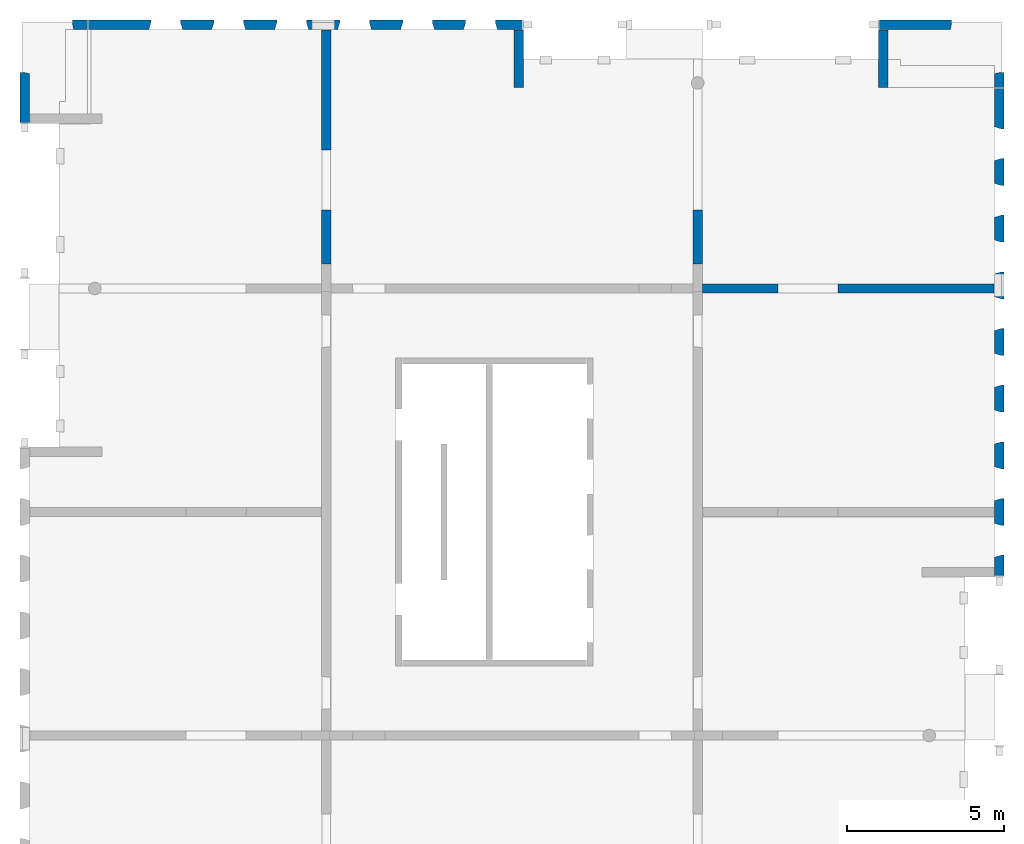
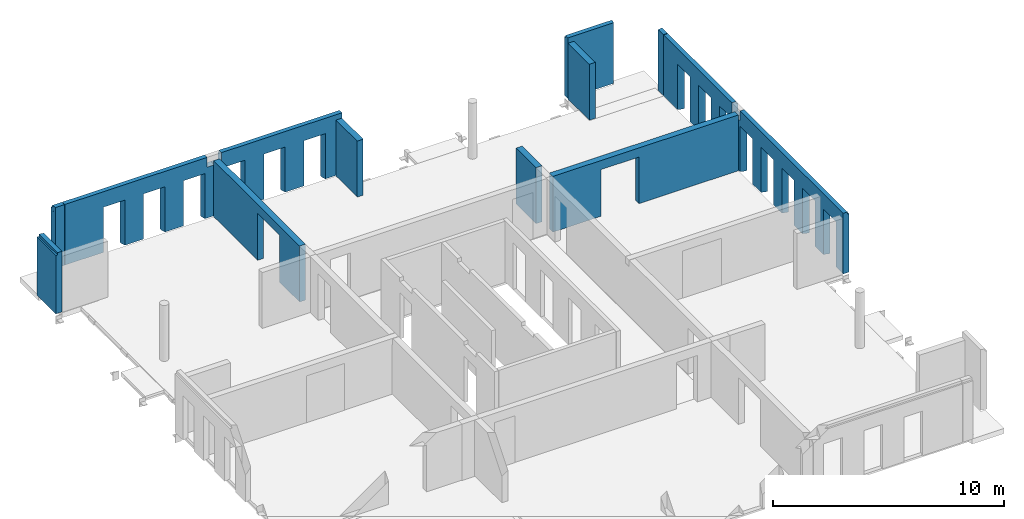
# One storey, part 4 of 6: 13 walls, 32 openings.
"""IFC2X3 building model written with IfcOpenShell, lengths in millimetres."""

from ifc_helpers import new_model, entity, si_unit, converted_unit, derived_unit, direction, frame, frame_2d, origin, origin_2d_with_axis, place, context, subcontext, project, spatial, polyline, rectangle, extrude, clip, bounded_halfspace, faceted_brep, material, layer, layer_set, layer_usage, type_object, element, save


model = new_model("IFC2X3")

# Units and contexts
model_context = context("Model", 3, precision=0.01, world=origin(), true_north=direction((6.12303176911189e-17, 1.0)))
body_context = subcontext(model_context, "Body", "Model", "MODEL_VIEW")
ifc_project = project(units=[si_unit("LENGTHUNIT", "METRE", prefix="MILLI"), si_unit("AREAUNIT", "SQUARE_METRE"), si_unit("VOLUMEUNIT", "CUBIC_METRE"), converted_unit("PLANEANGLEUNIT", "DEGREE", entity("IfcRatioMeasure", 0.0174532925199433), si_unit("PLANEANGLEUNIT", "RADIAN"), dimensions=[0, 0, 0, 0, 0, 0, 0]), si_unit("MASSUNIT", "GRAM", prefix="KILO"), derived_unit("MASSDENSITYUNIT", [(si_unit("MASSUNIT", "GRAM", prefix="KILO"), 1), (si_unit("LENGTHUNIT", "METRE"), -3)]), si_unit("TIMEUNIT", "SECOND"), si_unit("FREQUENCYUNIT", "HERTZ"), si_unit("THERMODYNAMICTEMPERATUREUNIT", "DEGREE_CELSIUS"), derived_unit("THERMALTRANSMITTANCEUNIT", [(si_unit("MASSUNIT", "GRAM", prefix="KILO"), 1), (si_unit("THERMODYNAMICTEMPERATUREUNIT", "KELVIN"), -1), (si_unit("TIMEUNIT", "SECOND"), -3)]), derived_unit("VOLUMETRICFLOWRATEUNIT", [(si_unit("LENGTHUNIT", "METRE"), 3), (si_unit("TIMEUNIT", "SECOND"), -1)]), si_unit("ELECTRICCURRENTUNIT", "AMPERE"), si_unit("ELECTRICVOLTAGEUNIT", "VOLT"), si_unit("POWERUNIT", "WATT"), si_unit("FORCEUNIT", "NEWTON", prefix="KILO"), si_unit("ILLUMINANCEUNIT", "LUX"), si_unit("LUMINOUSFLUXUNIT", "LUMEN"), si_unit("LUMINOUSINTENSITYUNIT", "CANDELA"), derived_unit("USERDEFINED", [(si_unit("MASSUNIT", "GRAM", prefix="KILO"), -1), (si_unit("LENGTHUNIT", "METRE"), -2), (si_unit("TIMEUNIT", "SECOND"), 3), (si_unit("LUMINOUSFLUXUNIT", "LUMEN"), 1)]), derived_unit("LINEARVELOCITYUNIT", [(si_unit("LENGTHUNIT", "METRE"), 1), (si_unit("TIMEUNIT", "SECOND"), -1)]), si_unit("PRESSUREUNIT", "PASCAL"), derived_unit("USERDEFINED", [(si_unit("LENGTHUNIT", "METRE"), -2), (si_unit("MASSUNIT", "GRAM", prefix="KILO"), 1), (si_unit("TIMEUNIT", "SECOND"), -2)])], contexts=[model_context])

# Site, building, storey
site_placement = place(None, origin())
site = spatial("IfcSite", under=ifc_project, at=site_placement, Name="Default", CompositionType="ELEMENT")
building_placement = place(site_placement, origin())
building = spatial("IfcBuilding", under=site, at=building_placement, Name="niet gebruiken", CompositionType="ELEMENT")
storey_placement = place(building_placement, frame((0.0, 0.0, 161820.0)))
storey = spatial("IfcBuildingStorey", under=building, at=storey_placement, Name="52 tweeënvijftigste verdieping", CompositionType="ELEMENT", Elevation=161820.0)

# Wall, opening
ifc_material = material(Name="NLRS_f2_beton prefab")
ifc_layer_1 = layer(ifc_material, 300.0)
ifc_layer_set_1 = layer_set([ifc_layer_1], Name="Basic Wall:NLRS_22.21_WA_beton prefab d=300_gen")
ifc_layer_usage_1 = layer_usage(ifc_layer_set_1, "AXIS2", "NEGATIVE", 150.0)
wall_type_1 = type_object("IfcWallType", Name="Basic Wall:NLRS_22.21_WA_beton prefab d=300_gen", PredefinedType="STANDARD", material=ifc_layer_set_1)
wall_1_placement = place(storey_placement, frame((157060.0, 24600.0, -60.0), z_axis=(0.0, 0.0, 1.0), x_axis=(-1.0, 0.0, 0.0)))
wall_1 = element("IfcWallStandardCase", 1, at=wall_1_placement, inside=storey, type_object=wall_type_1, material=ifc_layer_usage_1, Name="Basic Wall:NLRS_22.21_WA_beton prefab d=300_gen", ObjectType="Basic Wall:NLRS_22.21_WA_beton prefab d=300_gen", context=body_context, shape_type="SweptSolid", body=[
    extrude(rectangle(XDim=9260.00000000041, YDim=300.000000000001, at=frame_2d((4630.0000000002, -1.69109171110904e-12), x_axis=(-1.0, 0.0))), origin(), (0.0, 0.0, 1.0), 2939.99999999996),
])
opening_1_placement = place(wall_1_placement, origin())
element("IfcOpeningElement", 2, at=opening_1_placement, cuts=wall_1, Name="Basic Wall:NLRS_22.21_WA_beton prefab d=300_gen", ObjectType="Opening", context=body_context, shape_type="SweptSolid", body=[
    extrude(rectangle(XDim=2469.99999999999, YDim=1900.0, at=frame_2d((1.73940861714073e-11, 8.69704308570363e-12), x_axis=(1.0, 0.0))), frame((5910.0, -150.0, 1225.0), z_axis=(0.0, 1.0, 0.0), x_axis=(0.0, 0.0, -1.0)), (0.0, 0.0, 1.0), 300.000000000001),
])

# Walls
ifc_layer_usage_2 = layer_usage(ifc_layer_set_1, "AXIS2", "NEGATIVE", 150.0)
wall_2_placement = place(storey_placement, frame((147650.0, 25380.0, -70.0), z_axis=(0.0, 0.0, 1.0), x_axis=(0.0, 1.0, 0.0)))
element("IfcWallStandardCase", 3, at=wall_2_placement, inside=storey, type_object=wall_type_1, material=ifc_layer_usage_2, Name="Basic Wall:NLRS_22.21_WA_beton prefab d=300_gen", ObjectType="Basic Wall:NLRS_22.21_WA_beton prefab d=300_gen", context=body_context, shape_type="SweptSolid", body=[
    extrude(rectangle(XDim=1720.00000000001, YDim=300.000000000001, at=frame_2d((860.000000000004, -6.89226453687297e-12), x_axis=(-1.0, 0.0))), origin(), (0.0, 0.0, 1.0), 2949.99999999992),
])
ifc_layer_usage_3 = layer_usage(ifc_layer_set_1, "AXIS2", "NEGATIVE", 150.0)
wall_3_placement = place(storey_placement, frame((153540.0, 32810.0, -70.0), z_axis=(0.0, 0.0, 1.0), x_axis=(0.0, -1.0, 0.0)))
element("IfcWallStandardCase", 4, at=wall_3_placement, inside=storey, type_object=wall_type_1, material=ifc_layer_usage_3, Name="Basic Wall:NLRS_22.21_WA_beton prefab d=300_gen", ObjectType="Basic Wall:NLRS_22.21_WA_beton prefab d=300_gen", context=body_context, shape_type="SweptSolid", body=[
    extrude(rectangle(XDim=1829.99999999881, YDim=300.000000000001, at=frame_2d((914.999999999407, -2.07478478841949e-12), x_axis=(-1.0, 0.0))), origin(), (0.0, 0.0, 1.0), 2949.99999999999),
])
ifc_layer_usage_4 = layer_usage(ifc_layer_set_1, "AXIS2", "NEGATIVE", 150.0)
wall_4_placement = place(storey_placement, frame((141960.0, 32810.0, -70.0), z_axis=(0.0, 0.0, 1.0), x_axis=(0.0, -1.0, 0.0)))
element("IfcWallStandardCase", 5, at=wall_4_placement, inside=storey, type_object=wall_type_1, material=ifc_layer_usage_4, Name="Basic Wall:NLRS_22.21_WA_beton prefab d=300_gen", ObjectType="Basic Wall:NLRS_22.21_WA_beton prefab d=300_gen", context=body_context, shape_type="SweptSolid", body=[
    extrude(rectangle(XDim=1829.99999999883, YDim=300.000000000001, at=frame_2d((914.999999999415, -2.07478478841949e-12), x_axis=(-1.0, 0.0))), origin(), (0.0, 0.0, 1.0), 2949.99999999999),
])

# Wall, opening
ifc_layer_usage_5 = layer_usage(ifc_layer_set_1, "AXIS2", "NEGATIVE", 150.0)
wall_5_placement = place(storey_placement, frame((135850.0, 25380.0, -70.0), z_axis=(0.0, 0.0, 1.0), x_axis=(0.0, 1.0, 0.0)))
wall_5 = element("IfcWallStandardCase", 6, at=wall_5_placement, inside=storey, type_object=wall_type_1, material=ifc_layer_usage_5, Name="Basic Wall:NLRS_22.21_WA_beton prefab d=300_gen", ObjectType="Basic Wall:NLRS_22.21_WA_beton prefab d=300_gen", context=body_context, shape_type="SweptSolid", body=[
    extrude(rectangle(XDim=7430.00000000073, YDim=300.000000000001, at=frame_2d((3715.00000000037, -5.62749846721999e-12), x_axis=(-1.0, 0.0))), origin(), (0.0, 0.0, 1.0), 2949.99999999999),
])
opening_2_placement = place(wall_5_placement, origin())
element("IfcOpeningElement", 7, at=opening_2_placement, cuts=wall_5, Name="Basic Wall:NLRS_22.21_WA_beton prefab d=300_gen", ObjectType="Opening", context=body_context, shape_type="SweptSolid", body=[
    extrude(rectangle(XDim=2469.99999999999, YDim=1899.99999999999, at=frame_2d((1.73940861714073e-11, -2.1600499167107e-12), x_axis=(1.0, 0.0))), frame((2670.0, -150.0, 1235.0), z_axis=(0.0, 1.0, 0.0), x_axis=(0.0, 0.0, -1.0)), (0.0, 0.0, 1.0), 300.000000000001),
])

# Wall, openings
ifc_layer_2 = layer(ifc_material, 300.0)
ifc_layer_set_2 = layer_set([ifc_layer_2], Name="Basic Wall:NLRS_21.21_WA_beton prefab d=300/320_gen")
ifc_layer_usage_6 = layer_usage(ifc_layer_set_2, "AXIS2", "NEGATIVE", 150.0)
wall_type_2 = type_object("IfcWallType", Name="Basic Wall:NLRS_21.21_WA_beton prefab d=300/320_gen", PredefinedType="STANDARD", material=ifc_layer_set_2)
wall_6_placement = place(storey_placement, frame((128290.0, 32980.0, -50.0)))
wall_6 = element("IfcWallStandardCase", 8, at=wall_6_placement, inside=storey, type_object=wall_type_2, material=ifc_layer_usage_6, Name="Basic Wall:NLRS_21.21_WA_beton prefab d=300/320_gen", ObjectType="Basic Wall:NLRS_21.21_WA_beton prefab d=300/320_gen", context=body_context, shape_type="SweptSolid", body=[
    extrude(rectangle(XDim=7449.9999999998, YDim=300.000000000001, at=frame_2d((3724.9999999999, 0.0), x_axis=(-1.0, 0.0))), origin(), (0.0, 0.0, 1.0), 3199.99999999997),
])
opening_3_placement = place(wall_6_placement, frame((3925.0, -150.0, -20.0)))
element("IfcOpeningElement", 9, at=opening_3_placement, cuts=wall_6, Name="Basic Wall:NLRS_21.21_WA_beton prefab d=300/320_gen", ObjectType="Opening", context=body_context, shape_type="Brep", body=[
    faceted_brep([(1070.0, 0.0, 2405.0), (0.0, 0.0, 2405.0), (0.0, 0.0, 0.0), (1070.0, 0.0, 0.0), (1005.0, 219.0, 2370.0), (65.0, 219.0, 2370.0), (65.0, 219.0, 0.0), (65.0, 300.0, 0.0), (1005.0, 300.0, 0.0), (1005.0, 219.0, 0.0), (1005.0, 300.0, 2370.0), (65.0, 300.0, 2370.0)], [[[0, 1, 2, 3]], [[1, 0, 4, 5]], [[2, 1, 5, 6]], [[3, 2, 6, 7, 8, 9]], [[0, 3, 9, 4]], [[10, 8, 7, 11]], [[10, 11, 5, 4]], [[11, 7, 6, 5]], [[8, 10, 4, 9]]]),
])
opening_4_placement = place(wall_6_placement, frame((1925.0, -150.0, -20.0)))
element("IfcOpeningElement", 10, at=opening_4_placement, cuts=wall_6, Name="Basic Wall:NLRS_21.21_WA_beton prefab d=300/320_gen", ObjectType="Opening", context=body_context, shape_type="Brep", body=[
    faceted_brep([(1070.0, 0.0, 2405.0), (0.0, 0.0, 2405.0), (0.0, 0.0, 0.0), (1070.0, 0.0, 0.0), (1005.0, 219.0, 2370.0), (65.0, 219.0, 2370.0), (65.0, 219.0, 0.0), (65.0, 300.0, 0.0), (1005.0, 300.0, 0.0), (1005.0, 219.0, 0.0), (1005.0, 300.0, 2370.0), (65.0, 300.0, 2370.0)], [[[0, 1, 2, 3]], [[1, 0, 4, 5]], [[2, 1, 5, 6]], [[3, 2, 6, 7, 8, 9]], [[0, 3, 9, 4]], [[10, 8, 7, 11]], [[10, 11, 5, 4]], [[11, 7, 6, 5]], [[8, 10, 4, 9]]]),
])
opening_5_placement = place(wall_6_placement, frame((5925.0, -150.0, -20.0)))
element("IfcOpeningElement", 11, at=opening_5_placement, cuts=wall_6, Name="Basic Wall:NLRS_21.21_WA_beton prefab d=300/320_gen", ObjectType="Opening", context=body_context, shape_type="Brep", body=[
    faceted_brep([(0.0, 0.0, 2405.0), (0.0, 0.0, 0.0), (1070.0, 0.0, 0.0), (1070.0, 0.0, 2405.0), (1005.0, 219.0, 2370.0), (65.0, 219.0, 2370.0), (1005.0, 219.0, 0.0), (65.0, 219.0, 0.0), (65.0, 300.0, 0.0), (1005.0, 300.0, 0.0), (65.0, 300.0, 2370.0), (1005.0, 300.0, 2370.0)], [[[0, 1, 2, 3]], [[3, 4, 5, 0]], [[2, 6, 4, 3]], [[1, 7, 8, 9, 6, 2]], [[0, 5, 7, 1]], [[10, 11, 9, 8]], [[10, 5, 4, 11]], [[11, 4, 6, 9]], [[8, 7, 5, 10]]]),
])
opening_6_placement = place(wall_6_placement, origin())
element("IfcOpeningElement", 12, at=opening_6_placement, cuts=wall_6, Name="Basic Wall:NLRS_21.21_WA_beton prefab d=300/320_gen", ObjectType="Recess", context=body_context, shape_type="SweptSolid", body=[
    extrude(rectangle(XDim=124.999999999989, YDim=27940.0, at=origin_2d_with_axis()), frame((13460.0, 66.0, 3137.49999999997), z_axis=(0.0, 1.0, 0.0), x_axis=(0.0, 0.0, -1.0)), (0.0, 0.0, 1.0), 83.9999999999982),
])
opening_7_placement = place(wall_6_placement, origin())
element("IfcOpeningElement", 13, at=opening_7_placement, cuts=wall_6, Name="Basic Wall:NLRS_21.21_WA_beton prefab d=300/320_gen", ObjectType="Opening", context=body_context, shape_type="SweptSolid", body=[
    extrude(rectangle(XDim=515.000000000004, YDim=345.000000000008, at=origin_2d_with_axis()), frame((7277.49999999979, 150.0, 2942.49999999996), z_axis=(0.0, -1.0, 0.0), x_axis=(0.0, 0.0, 1.0)), (0.0, 0.0, 1.0), 300.0),
])

ifc_layer_usage_7 = layer_usage(ifc_layer_set_2, "AXIS2", "NEGATIVE", 150.0)
wall_7_placement = place(storey_placement, frame((157230.0, 30960.0, -50.0), z_axis=(0.0, 0.0, 1.0), x_axis=(0.0, -1.0, 0.0)))
wall_7 = element("IfcWallStandardCase", 14, at=wall_7_placement, inside=storey, type_object=wall_type_2, material=ifc_layer_usage_7, Name="Basic Wall:NLRS_21.21_WA_beton prefab d=300/320_gen", ObjectType="Basic Wall:NLRS_21.21_WA_beton prefab d=300/320_gen", context=body_context, shape_type="SweptSolid", body=[
    extrude(rectangle(XDim=6249.99999999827, YDim=300.000000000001, at=frame_2d((3124.99999999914, -5.74118530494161e-12), x_axis=(-1.0, 0.0))), origin(), (0.0, 0.0, 1.0), 3199.99999999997),
])
opening_8_placement = place(wall_7_placement, frame((2295.0, -150.0, -20.0)))
element("IfcOpeningElement", 15, at=opening_8_placement, cuts=wall_7, Name="Basic Wall:NLRS_21.21_WA_beton prefab d=300/320_gen", ObjectType="Opening", context=body_context, shape_type="Brep", body=[
    faceted_brep([(-1070.0, 0.0, 2405.0), (-1070.0, 0.0, 0.0), (0.0, 0.0, 0.0), (0.0, 0.0, 2405.0), (-65.0, 219.0, 2370.0), (-1005.0, 219.0, 2370.0), (-65.0, 219.0, 0.0), (-1005.0, 219.0, 0.0), (-1005.0, 300.0, 0.0), (-65.0, 300.0, 0.0), (-1005.0, 300.0, 2370.0), (-65.0, 300.0, 2370.0)], [[[0, 1, 2, 3]], [[3, 4, 5, 0]], [[2, 6, 4, 3]], [[1, 7, 8, 9, 6, 2]], [[0, 5, 7, 1]], [[10, 11, 9, 8]], [[10, 5, 4, 11]], [[11, 4, 6, 9]], [[8, 7, 5, 10]]]),
])
opening_9_placement = place(wall_7_placement, frame((4095.0, -150.0, -20.0)))
element("IfcOpeningElement", 16, at=opening_9_placement, cuts=wall_7, Name="Basic Wall:NLRS_21.21_WA_beton prefab d=300/320_gen", ObjectType="Opening", context=body_context, shape_type="Brep", body=[
    faceted_brep([(-1070.0, 0.0, 2405.0), (-1070.0, 0.0, 0.0), (0.0, 0.0, 0.0), (0.0, 0.0, 2405.0), (-65.0, 219.0, 2370.0), (-1005.0, 219.0, 2370.0), (-65.0, 219.0, 0.0), (-1005.0, 219.0, 0.0), (-1005.0, 300.0, 0.0), (-65.0, 300.0, 0.0), (-1005.0, 300.0, 2370.0), (-65.0, 300.0, 2370.0)], [[[0, 1, 2, 3]], [[3, 4, 5, 0]], [[2, 6, 4, 3]], [[1, 7, 8, 9, 6, 2]], [[0, 5, 7, 1]], [[10, 11, 9, 8]], [[10, 5, 4, 11]], [[11, 4, 6, 9]], [[8, 7, 5, 10]]]),
])
opening_10_placement = place(wall_7_placement, frame((5895.0, -150.0, -20.0)))
element("IfcOpeningElement", 17, at=opening_10_placement, cuts=wall_7, Name="Basic Wall:NLRS_21.21_WA_beton prefab d=300/320_gen", ObjectType="Opening", context=body_context, shape_type="Brep", body=[
    faceted_brep([(-1070.0, 0.0, 2405.0), (-1070.0, 0.0, 0.0), (0.0, 0.0, 0.0), (0.0, 0.0, 2405.0), (-65.0, 219.0, 2370.0), (-1005.0, 219.0, 2370.0), (-65.0, 219.0, 0.0), (-1005.0, 219.0, 0.0), (-1005.0, 300.0, 0.0), (-65.0, 300.0, 0.0), (-1005.0, 300.0, 2370.0), (-65.0, 300.0, 2370.0)], [[[0, 1, 2, 3]], [[3, 4, 5, 0]], [[2, 6, 4, 3]], [[1, 7, 8, 9, 6, 2]], [[0, 5, 7, 1]], [[10, 11, 9, 8]], [[10, 5, 4, 11]], [[11, 4, 6, 9]], [[8, 7, 5, 10]]]),
])
opening_11_placement = place(wall_7_placement, origin())
element("IfcOpeningElement", 18, at=opening_11_placement, cuts=wall_7, Name="Basic Wall:NLRS_21.21_WA_beton prefab d=300/320_gen", ObjectType="Recess", context=body_context, shape_type="SweptSolid", body=[
    extrude(rectangle(XDim=124.999999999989, YDim=27940.0, at=frame_2d((0.0, 4.54747350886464e-12), x_axis=(1.0, 0.0))), frame((13460.0, 66.0, 3137.50000000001), z_axis=(0.0, 1.0, 0.0), x_axis=(0.0, 0.0, -1.0)), (0.0, 0.0, 1.0), 83.9999999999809),
])
opening_12_placement = place(wall_7_placement, origin())
element("IfcOpeningElement", 19, at=opening_12_placement, cuts=wall_7, Name="Basic Wall:NLRS_21.21_WA_beton prefab d=300/320_gen", ObjectType="Opening", context=body_context, shape_type="SweptSolid", body=[
    extrude(rectangle(XDim=515.000000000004, YDim=345.0, at=origin_2d_with_axis()), frame((6077.49999999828, 150.0, 2942.49999999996), z_axis=(0.0, -1.0, 0.0), x_axis=(0.0, 0.0, 1.0)), (0.0, 0.0, 1.0), 300.0),
])

ifc_layer_usage_8 = layer_usage(ifc_layer_set_2, "AXIS2", "NEGATIVE", 150.0)
wall_8_placement = place(storey_placement, frame((127780.0, 32980.0, -50.0)))
wall_8 = element("IfcWallStandardCase", 20, at=wall_8_placement, inside=storey, type_object=wall_type_2, material=ifc_layer_usage_8, Name="Basic Wall:NLRS_21.21_WA_beton prefab d=300/320_gen", ObjectType="Basic Wall:NLRS_21.21_WA_beton prefab d=300/320_gen", context=body_context, shape_type="Clipping", body=[
    clip(clip(extrude(rectangle(XDim=489.999999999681, YDim=300.000000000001, at=frame_2d((244.99999999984, 9.09494701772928e-13), x_axis=(-1.0, 0.0))), origin(), (0.0, 0.0, 1.0), 3199.99999999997), bounded_halfspace(frame((47.4764890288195, -150.0, 2930.0), z_axis=(0.0, 0.0, -1.0), x_axis=(0.0, 1.0, 0.0)), True, frame((47.4764890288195, -150.0, 2930.0), z_axis=(0.0, 0.0, -1.0), x_axis=(0.0, 1.0, 0.0)), polyline([(0.0, 0.0), (0.0, -2.85266457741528), (219.0, -47.4764890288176), (233.0, -47.4764890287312), (0.0, 0.0)]))), bounded_halfspace(frame((0.0, 83.0, 2930.0), z_axis=(0.979865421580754, 0.199659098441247, 0.0), x_axis=(0.0, 0.0, 1.0)), True, frame((0.0, 83.0, 2930.0), z_axis=(0.979865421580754, 0.199659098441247, 0.0), x_axis=(0.0, 0.0, 1.0)), polyline([(0.0, 0.0), (145.0, 0.0), (145.0, 17.3493212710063), (270.0, 17.3493212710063), (270.0, 237.787756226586), (100.0, 237.787756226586), (0.0, 237.787756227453), (0.0, 0.0)]))),
])
opening_13_placement = place(wall_8_placement, frame((0.0, -250.0, -20.0)))
element("IfcOpeningElement", 21, at=opening_13_placement, cuts=wall_8, Name="Basic Wall:NLRS_21.21_WA_beton prefab d=300/320_gen", ObjectType="Opening", context=body_context, shape_type="Brep", body=[
    faceted_brep([(0.0, 0.0, 3240.0), (65.0, 0.0, 3240.0), (0.0, 319.0, 3240.0), (0.0, 0.0, 0.0), (0.0, 319.0, 0.0), (65.0, 0.0, 0.0)], [[[0, 1, 2]], [[3, 4, 5]], [[1, 0, 3, 5]], [[0, 2, 4, 3]], [[2, 1, 5, 4]]]),
])
opening_14_placement = place(wall_8_placement, origin())
element("IfcOpeningElement", 22, at=opening_14_placement, cuts=wall_8, Name="Basic Wall:NLRS_21.21_WA_beton prefab d=300/320_gen", ObjectType="Recess", context=body_context, shape_type="SweptSolid", body=[
    extrude(rectangle(XDim=124.999999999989, YDim=27940.0, at=origin_2d_with_axis()), frame((13970.0, 66.0, 3137.49999999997), z_axis=(0.0, 1.0, 0.0), x_axis=(0.0, 0.0, -1.0)), (0.0, 0.0, 1.0), 83.9999999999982),
])

ifc_layer_usage_9 = layer_usage(ifc_layer_set_2, "AXIS2", "NEGATIVE", 150.0)
wall_9_placement = place(storey_placement, frame((126270.0, 29840.0, -50.0), z_axis=(0.0, 0.0, 1.0), x_axis=(0.0, 1.0, 0.0)))
wall_9 = element("IfcWallStandardCase", 23, at=wall_9_placement, inside=storey, type_object=wall_type_2, material=ifc_layer_usage_9, Name="Basic Wall:NLRS_21.21_WA_beton prefab d=300/320_gen", ObjectType="Basic Wall:NLRS_21.21_WA_beton prefab d=300/320_gen", context=body_context, shape_type="Clipping", body=[
    clip(clip(extrude(rectangle(XDim=1629.99999999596, YDim=300.000000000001, at=frame_2d((814.999999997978, 2.77111666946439e-12), x_axis=(-1.0, 0.0))), origin(), (0.0, 0.0, 1.0), 3199.99999999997), bounded_halfspace(frame((1630.0, 83.0, 2930.0), z_axis=(0.0, 0.0, -1.0), x_axis=(1.0, 0.0, 0.0)), True, frame((1630.0, 83.0, 2930.0), z_axis=(0.0, 0.0, -1.0), x_axis=(1.0, 0.0, 0.0)), polyline([(0.0, 0.0), (0.0, 14.0), (-44.6238244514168, 233.0), (-47.4764890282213, 233.0), (0.0, 0.0)]))), bounded_halfspace(frame((1582.52351096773, -150.0, 2930.0), z_axis=(-0.97986542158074, 0.199659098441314, 0.0), x_axis=(0.0, 0.0, 1.0)), True, frame((1582.52351096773, -150.0, 2930.0), z_axis=(-0.97986542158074, 0.199659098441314, 0.0), x_axis=(0.0, 0.0, 1.0)), polyline([(0.0, 0.0), (270.0, 0.0), (270.0, 220.438434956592), (145.0, 220.438434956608), (145.0, 237.787756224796), (0.0, 237.787756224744), (0.0, 0.0)]))),
])
opening_15_placement = place(wall_9_placement, frame((1565.0, 69.0, -20.0)))
element("IfcOpeningElement", 24, at=opening_15_placement, cuts=wall_9, Name="Basic Wall:NLRS_21.21_WA_beton prefab d=300/320_gen", ObjectType="Opening", context=body_context, shape_type="Brep", body=[
    faceted_brep([(65.0, -319.0, 3240.0), (65.0, 0.0, 3240.0), (0.0, -319.0, 3240.0), (65.0, -319.0, 0.0), (0.0, -319.0, 0.0), (65.0, 0.0, 0.0)], [[[0, 1, 2]], [[3, 4, 5]], [[2, 4, 3, 0]], [[0, 3, 5, 1]], [[1, 5, 4, 2]]]),
])
opening_16_placement = place(wall_9_placement, origin())
element("IfcOpeningElement", 25, at=opening_16_placement, cuts=wall_9, Name="Basic Wall:NLRS_21.21_WA_beton prefab d=300/320_gen", ObjectType="Recess", context=body_context, shape_type="SweptSolid", body=[
    extrude(rectangle(XDim=124.999999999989, YDim=27940.0, at=frame_2d((0.0, 2.72848410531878e-12), x_axis=(1.0, 0.0))), frame((-12340.0, 66.0, 3137.49999999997), z_axis=(0.0, 1.0, 0.0), x_axis=(0.0, 0.0, -1.0)), (0.0, 0.0, 1.0), 84.0000000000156),
])

ifc_layer_usage_10 = layer_usage(ifc_layer_set_2, "AXIS2", "NEGATIVE", 150.0)
wall_10_placement = place(storey_placement, frame((153390.0, 32980.0, -50.0)))
wall_10 = element("IfcWallStandardCase", 26, at=wall_10_placement, inside=storey, type_object=wall_type_2, material=ifc_layer_usage_10, Name="Basic Wall:NLRS_21.21_WA_beton prefab d=300/320_gen", ObjectType="Basic Wall:NLRS_21.21_WA_beton prefab d=300/320_gen", context=body_context, shape_type="Clipping", body=[
    clip(clip(extrude(rectangle(XDim=2330.00000000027, YDim=300.000000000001, at=frame_2d((1165.00000000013, 7.53175299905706e-13), x_axis=(-1.0, 0.0))), origin(), (0.0, 0.0, 1.0), 3199.99999999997), bounded_halfspace(frame((2330.0, 83.0, 2930.0), z_axis=(0.0, 0.0, -1.0), x_axis=(1.0, 0.0, 0.0)), True, frame((2330.0, 83.0, 2930.0), z_axis=(0.0, 0.0, -1.0), x_axis=(1.0, 0.0, 0.0)), polyline([(0.0, 0.0), (0.0, 14.0), (-44.6238244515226, 233.0), (-47.4764890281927, 233.0), (0.0, 0.0)]))), bounded_halfspace(frame((2282.52351097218, -150.0, 2930.0), z_axis=(-0.97986542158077, 0.199659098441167, 0.0), x_axis=(0.0, 0.0, 1.0)), True, frame((2282.52351097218, -150.0, 2930.0), z_axis=(-0.97986542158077, 0.199659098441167, 0.0), x_axis=(0.0, 0.0, 1.0)), polyline([(0.0, 0.0), (270.0, 3.05385583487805e-09), (270.0, 220.438434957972), (145.0, 220.438434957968), (145.0, 237.787756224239), (0.0, 237.787756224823), (0.0, 0.0)]))),
])
opening_17_placement = place(wall_10_placement, frame((2265.0, -250.0, -20.0)))
element("IfcOpeningElement", 27, at=opening_17_placement, cuts=wall_10, Name="Basic Wall:NLRS_21.21_WA_beton prefab d=300/320_gen", ObjectType="Opening", context=body_context, shape_type="Brep", body=[
    faceted_brep([(65.0, 0.0, 3240.0), (65.0, 319.0, 3240.0), (0.0, 0.0, 3240.0), (65.0, 0.0, 0.0), (0.0, 0.0, 0.0), (65.0, 319.0, 0.0)], [[[0, 1, 2]], [[3, 4, 5]], [[2, 4, 3, 0]], [[0, 3, 5, 1]], [[1, 5, 4, 2]]]),
])
opening_18_placement = place(wall_10_placement, origin())
element("IfcOpeningElement", 28, at=opening_18_placement, cuts=wall_10, Name="Basic Wall:NLRS_21.21_WA_beton prefab d=300/320_gen", ObjectType="Recess", context=body_context, shape_type="SweptSolid", body=[
    extrude(rectangle(XDim=124.999999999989, YDim=27940.0, at=origin_2d_with_axis()), frame((-11640.0, 66.0, 3137.49999999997), z_axis=(0.0, 1.0, 0.0), x_axis=(0.0, 0.0, -1.0)), (0.0, 0.0, 1.0), 83.9999999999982),
])

ifc_layer_usage_11 = layer_usage(ifc_layer_set_2, "AXIS2", "NEGATIVE", 150.0)
wall_11_placement = place(storey_placement, frame((157230.0, 31470.0, -50.0), z_axis=(0.0, 0.0, 1.0), x_axis=(0.0, -1.0, 0.0)))
wall_11 = element("IfcWallStandardCase", 29, at=wall_11_placement, inside=storey, type_object=wall_type_2, material=ifc_layer_usage_11, Name="Basic Wall:NLRS_21.21_WA_beton prefab d=300/320_gen", ObjectType="Basic Wall:NLRS_21.21_WA_beton prefab d=300/320_gen", context=body_context, shape_type="Clipping", body=[
    clip(clip(extrude(rectangle(XDim=489.999999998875, YDim=300.000000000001, at=frame_2d((244.999999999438, -3.99325017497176e-12), x_axis=(-1.0, 0.0))), origin(), (0.0, 0.0, 1.0), 3199.99999999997), bounded_halfspace(frame((47.4764890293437, -150.0, 2930.0), z_axis=(0.0, 0.0, -1.0), x_axis=(0.0, 1.0, 0.0)), True, frame((47.4764890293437, -150.0, 2930.0), z_axis=(0.0, 0.0, -1.0), x_axis=(0.0, 1.0, 0.0)), polyline([(0.0, 0.0), (0.0, -2.85266457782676), (219.0, -47.4764890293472), (233.0, -47.4764890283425), (0.0, 0.0)]))), bounded_halfspace(frame((1.00490069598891e-09, 83.0, 2930.0), z_axis=(0.979865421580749, 0.199659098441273, 0.0), x_axis=(0.0, 0.0, 1.0)), True, frame((1.00490069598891e-09, 83.0, 2930.0), z_axis=(0.979865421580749, 0.199659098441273, 0.0), x_axis=(0.0, 0.0, 1.0)), polyline([(0.0, 0.0), (145.0, 0.0), (145.0, 17.3493212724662), (270.0, 17.3493212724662), (270.0, 237.787756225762), (80.0, 237.787756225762), (0.0, 237.787756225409), (0.0, 0.0)]))),
])
opening_19_placement = place(wall_11_placement, frame((65.0, -250.0, -20.0)))
element("IfcOpeningElement", 30, at=opening_19_placement, cuts=wall_11, Name="Basic Wall:NLRS_21.21_WA_beton prefab d=300/320_gen", ObjectType="Opening", context=body_context, shape_type="Brep", body=[
    faceted_brep([(-65.0, 0.0, 3240.0), (0.0, 0.0, 3240.0), (-65.0, 319.0, 3240.0), (-65.0, 0.0, 0.0), (-65.0, 319.0, 0.0), (0.0, 0.0, 0.0)], [[[0, 1, 2]], [[3, 4, 5]], [[1, 0, 3, 5]], [[0, 2, 4, 3]], [[2, 1, 5, 4]]]),
])
opening_20_placement = place(wall_11_placement, origin())
element("IfcOpeningElement", 31, at=opening_20_placement, cuts=wall_11, Name="Basic Wall:NLRS_21.21_WA_beton prefab d=300/320_gen", ObjectType="Recess", context=body_context, shape_type="SweptSolid", body=[
    extrude(rectangle(XDim=124.999999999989, YDim=27940.0, at=frame_2d((0.0, 4.54747350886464e-12), x_axis=(1.0, 0.0))), frame((13970.0, 66.0, 3137.50000000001), z_axis=(0.0, 1.0, 0.0), x_axis=(0.0, 0.0, -1.0)), (0.0, 0.0, 1.0), 83.9999999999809),
])

ifc_layer_usage_12 = layer_usage(ifc_layer_set_2, "AXIS2", "NEGATIVE", 150.0)
wall_12_placement = place(storey_placement, frame((157230.0, 24690.0, -50.0), z_axis=(0.0, 0.0, 1.0), x_axis=(0.0, -1.0, 0.0)))
wall_12 = element("IfcWallStandardCase", 32, at=wall_12_placement, inside=storey, type_object=wall_type_2, material=ifc_layer_usage_12, Name="Basic Wall:NLRS_21.21_WA_beton prefab d=300/320_gen", ObjectType="Basic Wall:NLRS_21.21_WA_beton prefab d=300/320_gen", context=body_context, shape_type="SweptSolid", body=[
    extrude(rectangle(XDim=9250.00000000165, YDim=300.000000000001, at=frame_2d((4625.00000000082, -5.40012479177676e-13), x_axis=(-1.0, 0.0))), origin(), (0.0, 0.0, 1.0), 3199.99999999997),
])
opening_21_placement = place(wall_12_placement, frame((8625.0, -150.0, -20.0)))
element("IfcOpeningElement", 33, at=opening_21_placement, cuts=wall_12, Name="Basic Wall:NLRS_21.21_WA_beton prefab d=300/320_gen", ObjectType="Opening", context=body_context, shape_type="Brep", body=[
    faceted_brep([(-1070.0, 0.0, 2405.0), (-1070.0, 0.0, 0.0), (0.0, 0.0, 0.0), (0.0, 0.0, 2405.0), (-65.0, 219.0, 2370.0), (-1005.0, 219.0, 2370.0), (-65.0, 219.0, 0.0), (-1005.0, 219.0, 0.0), (-1005.0, 300.0, 0.0), (-65.0, 300.0, 0.0), (-1005.0, 300.0, 2370.0), (-65.0, 300.0, 2370.0)], [[[0, 1, 2, 3]], [[3, 4, 5, 0]], [[2, 6, 4, 3]], [[1, 7, 8, 9, 6, 2]], [[0, 5, 7, 1]], [[10, 11, 9, 8]], [[10, 5, 4, 11]], [[11, 4, 6, 9]], [[8, 7, 5, 10]]]),
])
opening_22_placement = place(wall_12_placement, frame((5025.0, -150.0, -20.0)))
element("IfcOpeningElement", 34, at=opening_22_placement, cuts=wall_12, Name="Basic Wall:NLRS_21.21_WA_beton prefab d=300/320_gen", ObjectType="Opening", context=body_context, shape_type="Brep", body=[
    faceted_brep([(-1070.0, 0.0, 2405.0), (-1070.0, 0.0, 0.0), (0.0, 0.0, 0.0), (0.0, 0.0, 2405.0), (-65.0, 219.0, 2370.0), (-1005.0, 219.0, 2370.0), (-65.0, 219.0, 0.0), (-1005.0, 219.0, 0.0), (-1005.0, 300.0, 0.0), (-65.0, 300.0, 0.0), (-1005.0, 300.0, 2370.0), (-65.0, 300.0, 2370.0)], [[[0, 1, 2, 3]], [[3, 4, 5, 0]], [[2, 6, 4, 3]], [[1, 7, 8, 9, 6, 2]], [[0, 5, 7, 1]], [[10, 11, 9, 8]], [[10, 5, 4, 11]], [[11, 4, 6, 9]], [[8, 7, 5, 10]]]),
])
opening_23_placement = place(wall_12_placement, frame((3225.0, -150.0, -20.0)))
element("IfcOpeningElement", 35, at=opening_23_placement, cuts=wall_12, Name="Basic Wall:NLRS_21.21_WA_beton prefab d=300/320_gen", ObjectType="Opening", context=body_context, shape_type="Brep", body=[
    faceted_brep([(-1070.0, 0.0, 2405.0), (-1070.0, 0.0, 0.0), (0.0, 0.0, 0.0), (0.0, 0.0, 2405.0), (-65.0, 219.0, 2370.0), (-1005.0, 219.0, 2370.0), (-65.0, 219.0, 0.0), (-1005.0, 219.0, 0.0), (-1005.0, 300.0, 0.0), (-65.0, 300.0, 0.0), (-1005.0, 300.0, 2370.0), (-65.0, 300.0, 2370.0)], [[[0, 1, 2, 3]], [[3, 4, 5, 0]], [[2, 6, 4, 3]], [[1, 7, 8, 9, 6, 2]], [[0, 5, 7, 1]], [[10, 11, 9, 8]], [[10, 5, 4, 11]], [[11, 4, 6, 9]], [[8, 7, 5, 10]]]),
])
opening_24_placement = place(wall_12_placement, frame((6825.0, -150.0, -20.0)))
element("IfcOpeningElement", 36, at=opening_24_placement, cuts=wall_12, Name="Basic Wall:NLRS_21.21_WA_beton prefab d=300/320_gen", ObjectType="Opening", context=body_context, shape_type="Brep", body=[
    faceted_brep([(-1070.0, 0.0, 2405.0), (-1070.0, 0.0, 0.0), (0.0, 0.0, 0.0), (0.0, 0.0, 2405.0), (-65.0, 219.0, 2370.0), (-1005.0, 219.0, 2370.0), (-65.0, 219.0, 0.0), (-1005.0, 219.0, 0.0), (-1005.0, 300.0, 0.0), (-65.0, 300.0, 0.0), (-1005.0, 300.0, 2370.0), (-65.0, 300.0, 2370.0)], [[[0, 1, 2, 3]], [[3, 4, 5, 0]], [[2, 6, 4, 3]], [[1, 7, 8, 9, 6, 2]], [[0, 5, 7, 1]], [[10, 11, 9, 8]], [[10, 5, 4, 11]], [[11, 4, 6, 9]], [[8, 7, 5, 10]]]),
])
opening_25_placement = place(wall_12_placement, frame((1425.0, -150.0, -20.0)))
element("IfcOpeningElement", 37, at=opening_25_placement, cuts=wall_12, Name="Basic Wall:NLRS_21.21_WA_beton prefab d=300/320_gen", ObjectType="Opening", context=body_context, shape_type="Brep", body=[
    faceted_brep([(-1070.0, 0.0, 2405.0), (-1070.0, 0.0, 0.0), (0.0, 0.0, 0.0), (0.0, 0.0, 2405.0), (-65.0, 219.0, 2370.0), (-1005.0, 219.0, 2370.0), (-65.0, 219.0, 0.0), (-1005.0, 219.0, 0.0), (-1005.0, 300.0, 0.0), (-65.0, 300.0, 0.0), (-1005.0, 300.0, 2370.0), (-65.0, 300.0, 2370.0)], [[[0, 1, 2, 3]], [[3, 4, 5, 0]], [[2, 6, 4, 3]], [[1, 7, 8, 9, 6, 2]], [[0, 5, 7, 1]], [[10, 11, 9, 8]], [[10, 5, 4, 11]], [[11, 4, 6, 9]], [[8, 7, 5, 10]]]),
])
opening_26_placement = place(wall_12_placement, origin())
element("IfcOpeningElement", 38, at=opening_26_placement, cuts=wall_12, Name="Basic Wall:NLRS_21.21_WA_beton prefab d=300/320_gen", ObjectType="Recess", context=body_context, shape_type="SweptSolid", body=[
    extrude(rectangle(XDim=124.999999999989, YDim=27940.0, at=frame_2d((0.0, 4.54747350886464e-12), x_axis=(1.0, 0.0))), frame((7190.0, 66.0, 3137.50000000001), z_axis=(0.0, 1.0, 0.0), x_axis=(0.0, 0.0, -1.0)), (0.0, 0.0, 1.0), 83.9999999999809),
])
opening_27_placement = place(wall_12_placement, origin())
element("IfcOpeningElement", 39, at=opening_27_placement, cuts=wall_12, Name="Basic Wall:NLRS_21.21_WA_beton prefab d=300/320_gen", ObjectType="Opening", context=body_context, shape_type="SweptSolid", body=[
    extrude(rectangle(XDim=515.000000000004, YDim=345.000000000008, at=frame_2d((0.0, 0.0), x_axis=(0.0, 1.0))), frame((172.500000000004, 150.0, 2942.49999999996), z_axis=(0.0, -1.0, 0.0), x_axis=(-1.0, 0.0, 0.0)), (0.0, 0.0, 1.0), 300.0),
])

ifc_layer_usage_13 = layer_usage(ifc_layer_set_2, "AXIS2", "NEGATIVE", 150.0)
wall_13_placement = place(storey_placement, frame((135760.0, 32980.0, -50.0)))
wall_13 = element("IfcWallStandardCase", 40, at=wall_13_placement, inside=storey, type_object=wall_type_2, material=ifc_layer_usage_13, Name="Basic Wall:NLRS_21.21_WA_beton prefab d=300/320_gen", ObjectType="Basic Wall:NLRS_21.21_WA_beton prefab d=300/320_gen", context=body_context, shape_type="SweptSolid", body=[
    extrude(rectangle(XDim=6350.00000000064, YDim=300.000000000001, at=frame_2d((3175.00000000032, 0.0), x_axis=(-1.0, 0.0))), origin(), (0.0, 0.0, 1.0), 3199.99999999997),
])
opening_28_placement = place(wall_13_placement, frame((4455.0, -150.0, -20.0)))
element("IfcOpeningElement", 41, at=opening_28_placement, cuts=wall_13, Name="Basic Wall:NLRS_21.21_WA_beton prefab d=300/320_gen", ObjectType="Opening", context=body_context, shape_type="Brep", body=[
    faceted_brep([(1070.0, 0.0, 2405.0), (0.0, 0.0, 2405.0), (0.0, 0.0, 0.0), (1070.0, 0.0, 0.0), (1005.0, 219.0, 2370.0), (65.0, 219.0, 2370.0), (65.0, 219.0, 0.0), (65.0, 300.0, 0.0), (1005.0, 300.0, 0.0), (1005.0, 219.0, 0.0), (1005.0, 300.0, 2370.0), (65.0, 300.0, 2370.0)], [[[0, 1, 2, 3]], [[1, 0, 4, 5]], [[2, 1, 5, 6]], [[3, 2, 6, 7, 8, 9]], [[0, 3, 9, 4]], [[10, 8, 7, 11]], [[10, 11, 5, 4]], [[11, 7, 6, 5]], [[8, 10, 4, 9]]]),
])
opening_29_placement = place(wall_13_placement, frame((2455.0, -150.0, -20.0)))
element("IfcOpeningElement", 42, at=opening_29_placement, cuts=wall_13, Name="Basic Wall:NLRS_21.21_WA_beton prefab d=300/320_gen", ObjectType="Opening", context=body_context, shape_type="Brep", body=[
    faceted_brep([(1070.0, 0.0, 2405.0), (0.0, 0.0, 2405.0), (0.0, 0.0, 0.0), (1070.0, 0.0, 0.0), (1005.0, 219.0, 2370.0), (65.0, 219.0, 2370.0), (65.0, 219.0, 0.0), (65.0, 300.0, 0.0), (1005.0, 300.0, 0.0), (1005.0, 219.0, 0.0), (1005.0, 300.0, 2370.0), (65.0, 300.0, 2370.0)], [[[0, 1, 2, 3]], [[1, 0, 4, 5]], [[2, 1, 5, 6]], [[3, 2, 6, 7, 8, 9]], [[0, 3, 9, 4]], [[10, 8, 7, 11]], [[10, 11, 5, 4]], [[11, 7, 6, 5]], [[8, 10, 4, 9]]]),
])
opening_30_placement = place(wall_13_placement, frame((455.0, -150.0, -20.0)))
element("IfcOpeningElement", 43, at=opening_30_placement, cuts=wall_13, Name="Basic Wall:NLRS_21.21_WA_beton prefab d=300/320_gen", ObjectType="Opening", context=body_context, shape_type="Brep", body=[
    faceted_brep([(1070.0, 0.0, 2405.0), (0.0, 0.0, 2405.0), (0.0, 0.0, 0.0), (1070.0, 0.0, 0.0), (1005.0, 219.0, 2370.0), (65.0, 219.0, 2370.0), (65.0, 219.0, 0.0), (65.0, 300.0, 0.0), (1005.0, 300.0, 0.0), (1005.0, 219.0, 0.0), (1005.0, 300.0, 2370.0), (65.0, 300.0, 2370.0)], [[[0, 1, 2, 3]], [[1, 0, 4, 5]], [[2, 1, 5, 6]], [[3, 2, 6, 7, 8, 9]], [[0, 3, 9, 4]], [[10, 8, 7, 11]], [[10, 11, 5, 4]], [[11, 7, 6, 5]], [[8, 10, 4, 9]]]),
])
opening_31_placement = place(wall_13_placement, origin())
element("IfcOpeningElement", 44, at=opening_31_placement, cuts=wall_13, Name="Basic Wall:NLRS_21.21_WA_beton prefab d=300/320_gen", ObjectType="Recess", context=body_context, shape_type="SweptSolid", body=[
    extrude(rectangle(XDim=124.999999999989, YDim=27940.0, at=origin_2d_with_axis()), frame((5990.0, 66.0, 3137.49999999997), z_axis=(0.0, 1.0, 0.0), x_axis=(0.0, 0.0, -1.0)), (0.0, 0.0, 1.0), 83.9999999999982),
])
opening_32_placement = place(wall_13_placement, origin())
element("IfcOpeningElement", 45, at=opening_32_placement, cuts=wall_13, Name="Basic Wall:NLRS_21.21_WA_beton prefab d=300/320_gen", ObjectType="Opening", context=body_context, shape_type="SweptSolid", body=[
    extrude(rectangle(XDim=515.000000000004, YDim=344.999999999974, at=frame_2d((0.0, 0.0), x_axis=(0.0, 1.0))), frame((172.500000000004, 150.0, 2942.49999999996), z_axis=(0.0, -1.0, 0.0), x_axis=(-1.0, 0.0, 0.0)), (0.0, 0.0, 1.0), 300.0),
])

save(model, "model.ifc")
